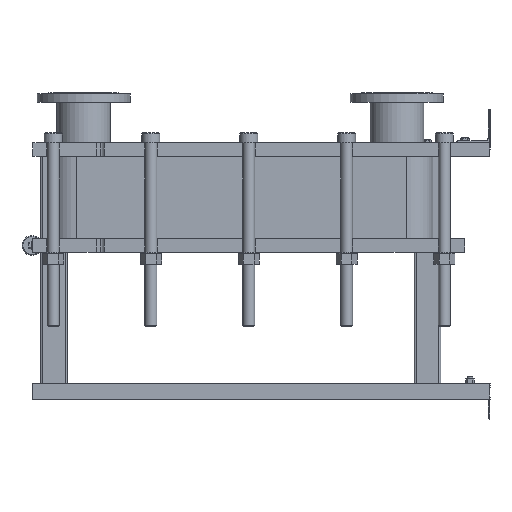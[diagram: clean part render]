
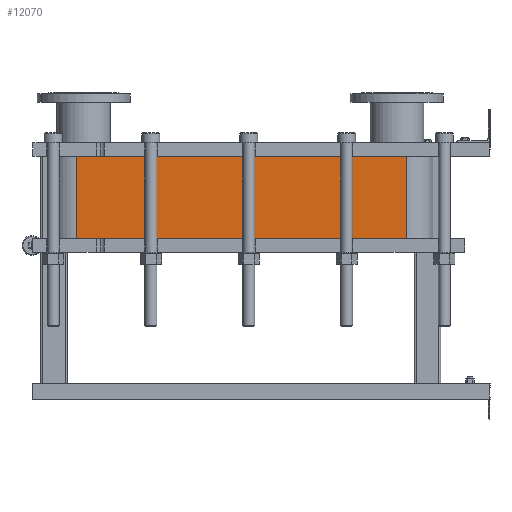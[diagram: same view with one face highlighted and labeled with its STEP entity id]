
A CAD part, left-side view. The second image highlights one B-rep face of the part: STEP entity #12070.
In plain terms, the highlighted planar face has unit normal (-1, 0, 0).
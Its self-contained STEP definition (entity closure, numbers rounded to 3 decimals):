
#1064=LINE('',#21140,#2164);
#1065=LINE('',#21144,#2165);
#1066=LINE('',#21146,#2166);
#1067=LINE('',#21147,#2167);
#2164=VECTOR('',#15790,10.);
#2165=VECTOR('',#15795,10.);
#2166=VECTOR('',#15796,10.);
#2167=VECTOR('',#15797,10.);
#3304=FACE_OUTER_BOUND('',#4091,.T.);
#4091=EDGE_LOOP('',(#9793,#9794,#9795,#9796));
#5677=VERTEX_POINT('',#21137);
#5678=VERTEX_POINT('',#21139);
#5679=VERTEX_POINT('',#21143);
#5680=VERTEX_POINT('',#21145);
#7118=EDGE_CURVE('',#5678,#5677,#1064,.T.);
#7120=EDGE_CURVE('',#5677,#5679,#1065,.T.);
#7121=EDGE_CURVE('',#5680,#5679,#1066,.T.);
#7122=EDGE_CURVE('',#5680,#5678,#1067,.T.);
#9793=ORIENTED_EDGE('',*,*,#7120,.T.);
#9794=ORIENTED_EDGE('',*,*,#7121,.F.);
#9795=ORIENTED_EDGE('',*,*,#7122,.T.);
#9796=ORIENTED_EDGE('',*,*,#7118,.T.);
#11441=PLANE('',#13191);
#12070=ADVANCED_FACE('',(#3304),#11441,.T.);
#13191=AXIS2_PLACEMENT_3D('',#21142,#15793,#15794);
#15790=DIRECTION('',(0.,0.,-1.));
#15793=DIRECTION('center_axis',(-1.,0.,0.));
#15794=DIRECTION('ref_axis',(0.,1.,0.));
#15795=DIRECTION('',(0.,-1.,0.));
#15796=DIRECTION('',(0.,0.,-1.));
#15797=DIRECTION('',(0.,1.,0.));
#21137=CARTESIAN_POINT('',(-248.152,1243.818,-248.4));
#21139=CARTESIAN_POINT('',(-248.152,1243.818,0.));
#21140=CARTESIAN_POINT('',(-248.152,1243.818,0.));
#21142=CARTESIAN_POINT('Origin',(-248.152,251.818,0.));
#21143=CARTESIAN_POINT('',(-248.152,251.818,-248.4));
#21144=CARTESIAN_POINT('',(-248.152,499.818,-248.4));
#21145=CARTESIAN_POINT('',(-248.152,251.818,0.));
#21146=CARTESIAN_POINT('',(-248.152,251.818,0.));
#21147=CARTESIAN_POINT('',(-248.152,251.818,0.));
